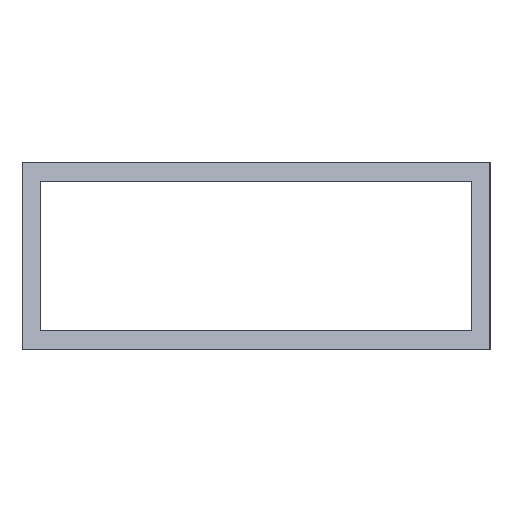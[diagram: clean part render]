
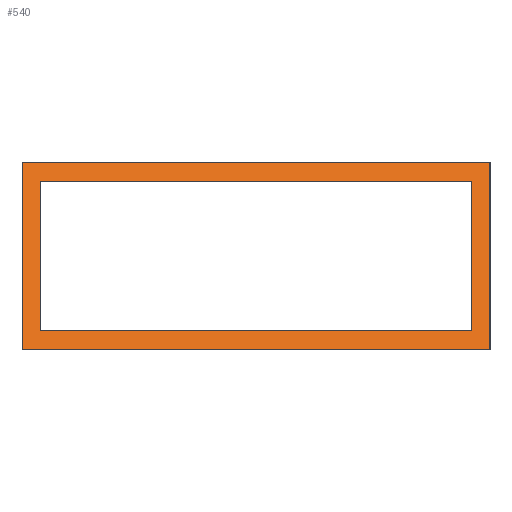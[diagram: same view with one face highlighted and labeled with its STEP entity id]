
A CAD part, left-side view. The second image highlights one B-rep face of the part: STEP entity #540.
In plain terms, the highlighted planar face has unit normal (-0.903, 0, 0.43).
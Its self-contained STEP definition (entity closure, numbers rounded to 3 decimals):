
#278=ORIENTED_EDGE('',*,*,#384,.T.);
#279=ORIENTED_EDGE('',*,*,#375,.T.);
#280=ORIENTED_EDGE('',*,*,#379,.T.);
#281=ORIENTED_EDGE('',*,*,#382,.T.);
#282=ORIENTED_EDGE('',*,*,#386,.T.);
#283=ORIENTED_EDGE('',*,*,#387,.T.);
#284=ORIENTED_EDGE('',*,*,#388,.T.);
#285=ORIENTED_EDGE('',*,*,#389,.T.);
#311=VECTOR('',#425,1.);
#315=VECTOR('',#431,1.);
#318=VECTOR('',#436,1.);
#320=VECTOR('',#440,1.);
#322=VECTOR('',#444,1.);
#323=VECTOR('',#445,1.);
#324=VECTOR('',#446,1.);
#325=VECTOR('',#447,1.);
#335=LINE('',#471,#311);
#339=LINE('',#479,#315);
#342=LINE('',#485,#318);
#344=LINE('',#488,#320);
#346=LINE('',#493,#322);
#347=LINE('',#495,#323);
#348=LINE('',#497,#324);
#349=LINE('',#498,#325);
#359=VERTEX_POINT('',#468);
#360=VERTEX_POINT('',#470);
#363=VERTEX_POINT('',#477);
#365=VERTEX_POINT('',#483);
#366=VERTEX_POINT('',#491);
#367=VERTEX_POINT('',#492);
#368=VERTEX_POINT('',#494);
#369=VERTEX_POINT('',#496);
#375=EDGE_CURVE('',#360,#359,#335,.T.);
#379=EDGE_CURVE('',#359,#363,#339,.T.);
#382=EDGE_CURVE('',#363,#365,#342,.T.);
#384=EDGE_CURVE('',#365,#360,#344,.T.);
#386=EDGE_CURVE('',#366,#367,#346,.T.);
#387=EDGE_CURVE('',#367,#368,#347,.T.);
#388=EDGE_CURVE('',#368,#369,#348,.T.);
#389=EDGE_CURVE('',#369,#366,#349,.T.);
#402=EDGE_LOOP('',(#278,#279,#280,#281));
#403=EDGE_LOOP('',(#282,#283,#284,#285));
#414=FACE_BOUND('',#402,.T.);
#415=FACE_BOUND('',#403,.T.);
#425=DIRECTION('',(9.54,0.,20.));
#431=DIRECTION('',(0.,50.,0.));
#436=DIRECTION('',(-9.54,0.,-20.));
#440=DIRECTION('',(0.,-50.,0.));
#442=DIRECTION('',(-0.903,0.,0.431));
#443=DIRECTION('',(0.,0.903,0.));
#444=DIRECTION('',(-7.632,0.,-16.));
#445=DIRECTION('',(0.,46.,0.));
#446=DIRECTION('',(7.632,0.,16.));
#447=DIRECTION('',(0.,-46.,0.));
#468=CARTESIAN_POINT('',(-48.025,-25.,10.));
#470=CARTESIAN_POINT('',(-57.564,-25.,-10.));
#471=CARTESIAN_POINT('',(-57.564,-25.,-10.));
#477=CARTESIAN_POINT('',(-48.025,25.,10.));
#479=CARTESIAN_POINT('',(-48.025,-25.,10.));
#483=CARTESIAN_POINT('',(-57.564,25.,-10.));
#485=CARTESIAN_POINT('',(-48.025,25.,10.));
#488=CARTESIAN_POINT('',(-57.564,25.,-10.));
#490=CARTESIAN_POINT('',(-56.635,25.,-8.052));
#491=CARTESIAN_POINT('',(-48.979,-23.,8.));
#492=CARTESIAN_POINT('',(-56.61,-23.,-8.));
#493=CARTESIAN_POINT('',(-48.979,-23.,8.));
#494=CARTESIAN_POINT('',(-56.61,23.,-8.));
#495=CARTESIAN_POINT('',(-56.61,-23.,-8.));
#496=CARTESIAN_POINT('',(-48.979,23.,8.));
#497=CARTESIAN_POINT('',(-56.61,23.,-8.));
#498=CARTESIAN_POINT('',(-48.979,23.,8.));
#520=AXIS2_PLACEMENT_3D('',#490,#442,#443);
#530=PLANE('',#520);
#540=ADVANCED_FACE('',(#414,#415),#530,.T.);
